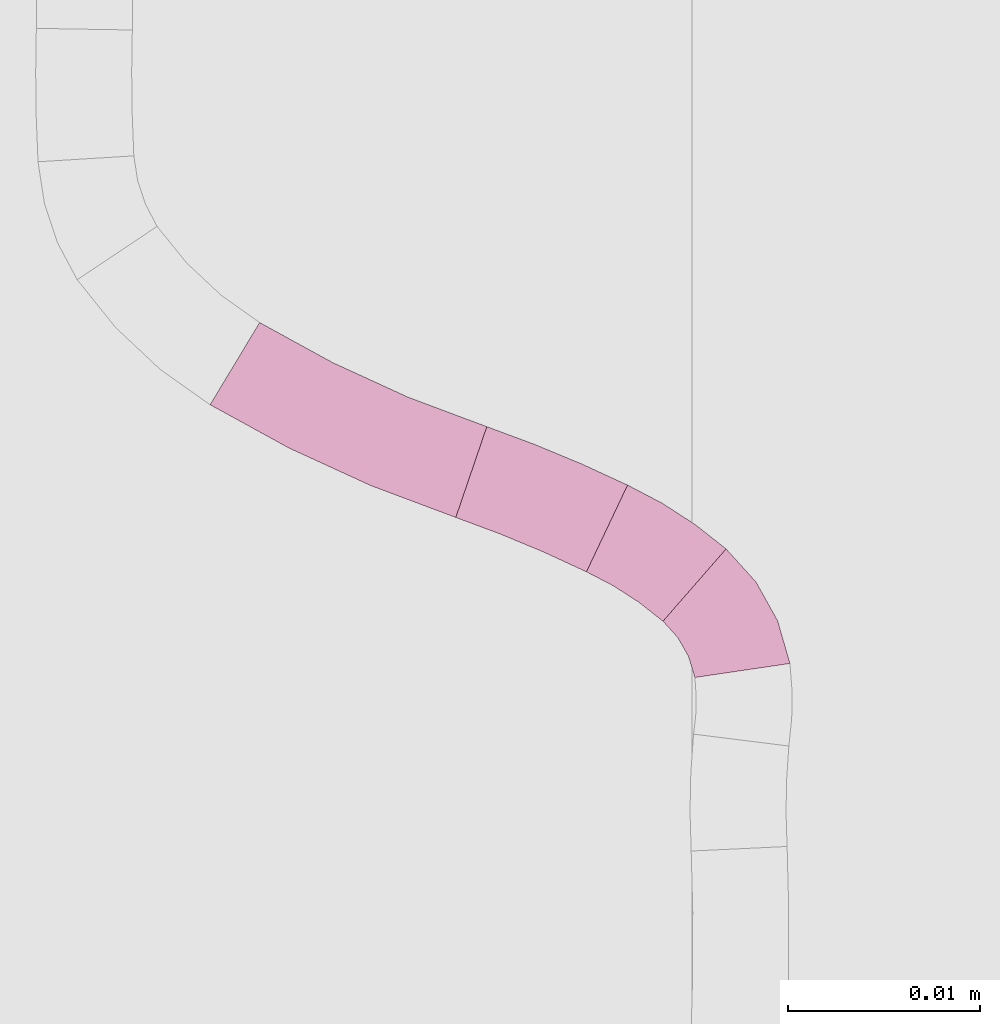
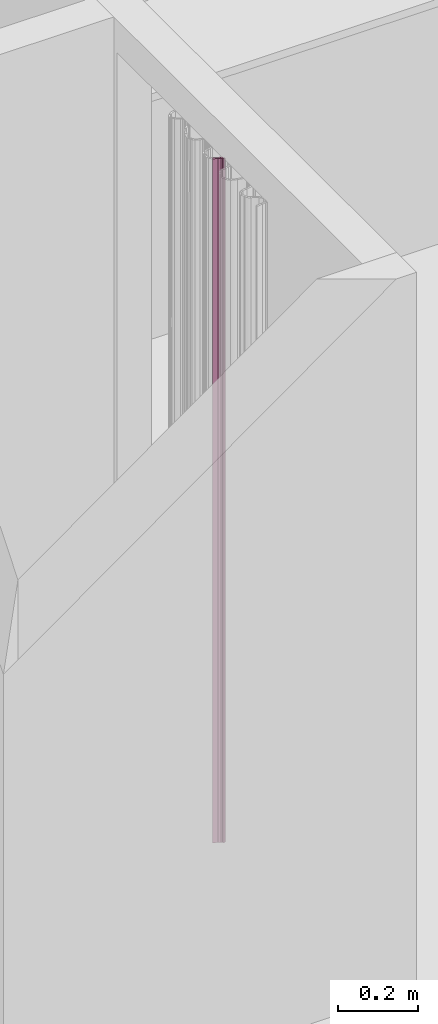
# One storey, part 313 of 418: 4 furnishings.
"""IFC2X3 building model written with IfcOpenShell, lengths in millimetres."""

from ifc_helpers import new_model, entity, si_unit, converted_unit, derived_unit, money_unit, point, direction, frame, frame_2d, origin_with_axes, place, context, subcontext, project, spatial, polyline, circle_curve, parameter, trimmed, segment, composite_curve, outline, extrude, material, type_object, element, save


model = new_model("IFC2X3")

# Units and contexts
model_context = context("Model", 3, precision=0.01, world=origin_with_axes(), true_north=direction((0.0, 1.0)))
body_context = subcontext(model_context, "Body", "Model", "MODEL_VIEW")
ifc_project = project(units=[si_unit("LENGTHUNIT", "METRE", prefix="MILLI"), si_unit("AREAUNIT", "SQUARE_METRE"), si_unit("VOLUMEUNIT", "CUBIC_METRE"), converted_unit("PLANEANGLEUNIT", "DEGREE", entity("IfcPlaneAngleMeasure", 0.0174532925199), si_unit("PLANEANGLEUNIT", "RADIAN"), dimensions=[0, 0, 0, 0, 0, 0, 0]), si_unit("SOLIDANGLEUNIT", "STERADIAN"), money_unit("EUR"), converted_unit("TIMEUNIT", "Year", entity("IfcTimeMeasure", 31556926.0), si_unit("TIMEUNIT", "SECOND"), dimensions=[0, 0, 1, 0, 0, 0, 0]), si_unit("MASSUNIT", "GRAM", prefix="KILO"), si_unit("THERMODYNAMICTEMPERATUREUNIT", "DEGREE_CELSIUS"), si_unit("LUMINOUSINTENSITYUNIT", "LUMEN"), si_unit("ENERGYUNIT", "JOULE", prefix="MEGA"), derived_unit("THERMALCONDUCTANCEUNIT", [(si_unit("POWERUNIT", "WATT"), 1), (si_unit("LENGTHUNIT", "METRE"), -1), (si_unit("THERMODYNAMICTEMPERATUREUNIT", "KELVIN"), -1)]), derived_unit("SPECIFICHEATCAPACITYUNIT", [(si_unit("ENERGYUNIT", "JOULE"), 1), (si_unit("MASSUNIT", "GRAM", prefix="KILO"), -1), (si_unit("THERMODYNAMICTEMPERATUREUNIT", "KELVIN"), -1)]), derived_unit("MASSDENSITYUNIT", [(si_unit("MASSUNIT", "GRAM", prefix="KILO"), 1), (si_unit("VOLUMEUNIT", "CUBIC_METRE"), -1)])], contexts=[model_context])

# Site, building, storey
site_placement = place(None, origin_with_axes())
site = spatial("IfcSite", under=ifc_project, at=site_placement, Name="Paldiski mnt 245/1, Tallinn, Harjumaa", CompositionType="COMPLEX")
building_placement = place(site_placement, origin_with_axes())
building = spatial("IfcBuilding", under=site, at=building_placement, Name="RKAS Hoone üldnimetus (kasutust iseloomustav) -> IFC Project Manager -> SOLIBRI", CompositionType="ELEMENT")
storey_placement = place(building_placement, origin_with_axes())
storey = spatial("IfcBuildingStorey", under=building, at=storey_placement, Name="Esimene korrus", CompositionType="ELEMENT", Elevation=0.0)

# Furnishings
ifc_material = material(Name="KON-00_GENEERILINE - KONSTRUKTSIOON")
furniture_type = type_object("IfcFurnitureType", Name="KON-00_GENEERILINE - KONSTRUKTSIOON 5", AssemblyPlace="NOTDEFINED")
furnishing_1_placement = place(storey_placement, frame((-44022.2418161, -2113.16594263, 0.0), z_axis=(0.0, 0.0, 1.0), x_axis=(-0.185154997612, 0.982709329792, 0.0)))
element("IfcFurnishingElement", 1, at=furnishing_1_placement, inside=storey, type_object=furniture_type, material=ifc_material, Name="SS-19", context=body_context, shape_type="SweptSolid", body=[
    extrude(outline(composite_curve([segment(trimmed(circle_curve(frame_2d((0.0, 5.19660941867), x_axis=(-0.0194390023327, -0.999811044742)), 10.1966094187), [point((-0.198211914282, -4.99807329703)), parameter(0.0)], [point((6.27972809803, -2.83681193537)), parameter(39.1285943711)], True, "CARTESIAN"), True, "CONTINUOUS"), segment(polyline([(6.27972809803, -2.83681193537), (3.18787537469, 1.09268446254)]), True, "CONTINUOUS"), segment(trimmed(circle_curve(frame_2d((0.0, 5.19660941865), x_axis=(0.0, -1.0)), 5.19660941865), [point((3.18787537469, 1.09268446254)), parameter(37.8395946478)], [point((0.0, 0.0)), parameter(0.0)], False, "CARTESIAN"), True, "CONTINUOUS"), segment(polyline([(0.0, 0.0), (-0.198211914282, -4.99807329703)]), True, "CONTINUOUS")], self_intersect=False)), origin_with_axes(), (0.0, 0.0, 1.0), 2100.0),
])
furnishing_2_placement = place(storey_placement, frame((-44023.9058584, -2110.23550374, 0.0), z_axis=(0.0, 0.0, 1.0), x_axis=(-0.756503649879, 0.653989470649, 0.0)))
element("IfcFurnishingElement", 2, at=furnishing_2_placement, inside=storey, type_object=furniture_type, material=ifc_material, Name="SS-18", context=body_context, shape_type="SweptSolid", body=[
    extrude(outline(composite_curve([segment(trimmed(circle_curve(frame_2d((0.0, 17.0627686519), x_axis=(-0.00114693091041, -0.999999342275)), 22.0627686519), [point((-0.0253044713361, -4.99998548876)), parameter(0.0)], [point((6.03259505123, -4.15923779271)), parameter(15.9341135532)], True, "CARTESIAN"), True, "CONTINUOUS"), segment(polyline([(6.03259505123, -4.15923779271), (4.69881838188, 0.659745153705)]), True, "CONTINUOUS"), segment(trimmed(circle_curve(frame_2d((0.0, 17.0627686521), x_axis=(0.0, -1.0)), 17.0627686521), [point((4.69881838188, 0.659745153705)), parameter(15.9849164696)], [point((0.0, 0.0)), parameter(0.0)], False, "CARTESIAN"), True, "CONTINUOUS"), segment(polyline([(0.0, 0.0), (-0.0253044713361, -4.99998548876)]), True, "CONTINUOUS")], self_intersect=False)), origin_with_axes(), (0.0, 0.0, 1.0), 2100.0),
])
furnishing_3_placement = place(storey_placement, frame((-44027.891998, -2107.66162561, 0.0), z_axis=(0.0, 0.0, 1.0), x_axis=(-0.90000281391, 0.435884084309, 0.0)))
element("IfcFurnishingElement", 3, at=furnishing_3_placement, inside=storey, type_object=furniture_type, material=ifc_material, Name="SS-17", context=body_context, shape_type="SweptSolid", body=[
    extrude(outline(composite_curve([segment(trimmed(circle_curve(frame_2d((0.0, 64.6944952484), x_axis=(0.000587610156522, -0.999999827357)), 69.6944952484), [point((0.0409531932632, -4.99998796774)), parameter(0.0)], [point((7.96467058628, -4.54340398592)), parameter(6.52841720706)], True, "CARTESIAN"), True, "CONTINUOUS"), segment(polyline([(7.96467058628, -4.54340398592), (7.35857869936, 0.419857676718)]), True, "CONTINUOUS"), segment(trimmed(circle_curve(frame_2d((0.0, 64.6944952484), x_axis=(0.0, -1.0)), 64.6944952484), [point((7.35857869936, 0.419857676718)), parameter(6.53115770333)], [point((0.0, 0.0)), parameter(0.0)], False, "CARTESIAN"), True, "CONTINUOUS"), segment(polyline([(0.0, 0.0), (0.0409531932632, -4.99998796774)]), True, "CONTINUOUS")], self_intersect=False)), origin_with_axes(), (0.0, 0.0, 1.0), 2100.0),
])
furnishing_4_placement = place(storey_placement, frame((-44047.4949675, -2098.96010788, 0.0), z_axis=(0.0, 0.0, 1.0), x_axis=(0.858824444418, -0.512270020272, 0.0)))
element("IfcFurnishingElement", 4, at=furnishing_4_placement, inside=storey, type_object=furniture_type, material=ifc_material, Name="SS-16", context=body_context, shape_type="SweptSolid", body=[
    extrude(outline(composite_curve([segment(trimmed(circle_curve(frame_2d((0.0, 65.5280027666), x_axis=(0.0, -1.0)), 65.5280027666), [point((1.27897692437e-10, 0.0)), parameter(0.0)], [point((13.9985643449, 1.51269723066)), parameter(12.3350011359)], True, "CARTESIAN"), True, "CONTINUOUS"), segment(polyline([(13.9985643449, 1.51269723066), (12.9644568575, 6.40472497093)]), True, "CONTINUOUS"), segment(trimmed(circle_curve(frame_2d((0.0, 65.5280027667), x_axis=(0.000376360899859, -0.999999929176)), 60.5280027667), [point((12.9644568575, 6.40472497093)), parameter(12.3464119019)], [point((0.0227803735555, 5.00000428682)), parameter(0.0)], False, "CARTESIAN"), True, "CONTINUOUS"), segment(polyline([(0.0227803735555, 5.00000428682), (1.27897692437e-10, 0.0)]), True, "CONTINUOUS")], self_intersect=False)), origin_with_axes(), (0.0, 0.0, 1.0), 2100.0),
])

save(model, "model.ifc")
